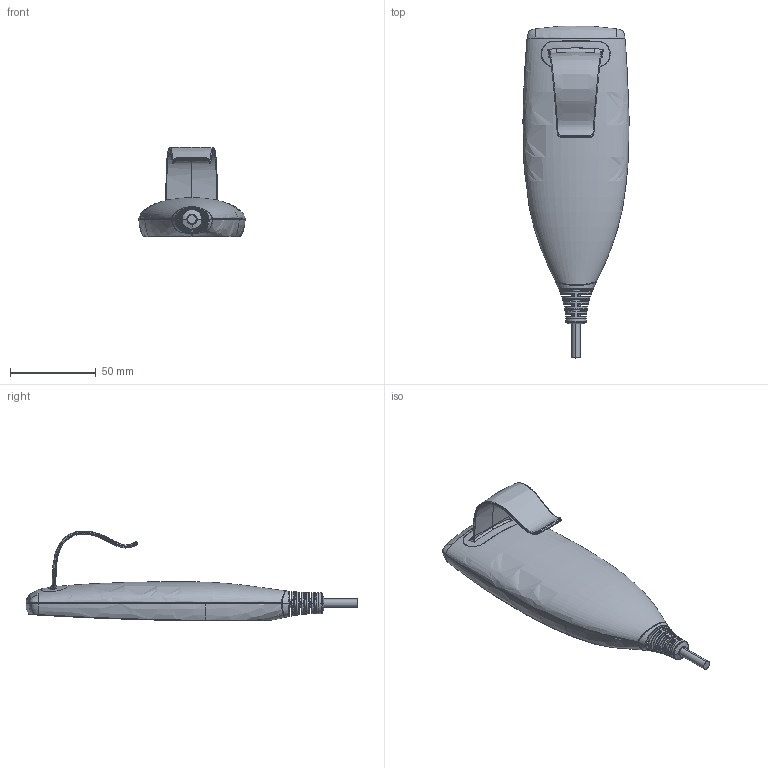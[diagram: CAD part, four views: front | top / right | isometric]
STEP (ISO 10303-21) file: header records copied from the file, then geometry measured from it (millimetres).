
FILE_DESCRIPTION (( 'STEP AP203' ), '1' );
FILE_NAME ('3D_TH26.STEP', '2017-07-07T04:35:20', ( '' ), ( '' ), 'SwSTEP 2.0', 'SolidWorks 2015', '' );
FILE_SCHEMA (( 'CONFIG_CONTROL_DESIGN' ));
Products named in the file (1): 3D_TH26
Bounding box: 61.87 x 193.47 x 52.31 mm (x, y, z)
Surface area: 59315.7 mm2 (no closed solid volume)
Topology: 0 solids, 483 shells, 487 faces, 2103 edges, 2094 vertices
Faces by surface type: bspline 254, cylinder 143, plane 88, torus 2
Entity records: 99885 total; most frequent: CARTESIAN_POINT 86221, ORIENTED_EDGE 2104, EDGE_CURVE 2099, VERTEX_POINT 2094, DIRECTION 1790, B_SPLINE_CURVE_WITH_KNOTS 1156, AXIS2_PLACEMENT_3D 630, LINE 530
